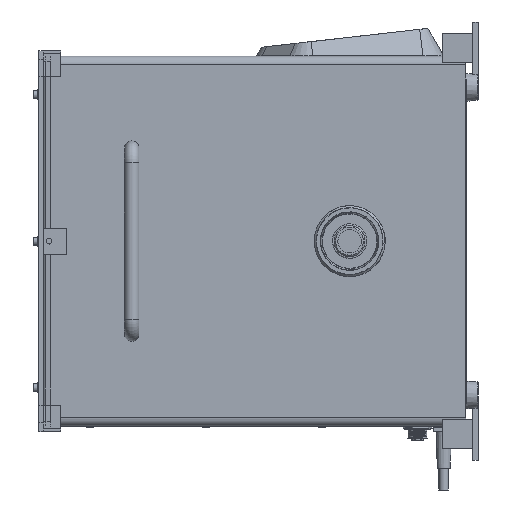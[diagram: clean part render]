
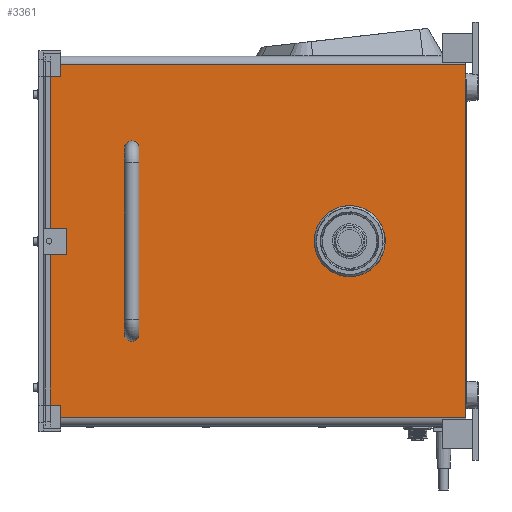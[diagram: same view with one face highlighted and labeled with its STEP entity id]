
A CAD part, left-side view. The second image highlights one B-rep face of the part: STEP entity #3361.
In plain terms, the highlighted planar face has unit normal (-1, 0, 0).
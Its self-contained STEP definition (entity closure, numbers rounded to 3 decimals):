
#864 = CYLINDRICAL_SURFACE('',#865,0.85);
#865 = AXIS2_PLACEMENT_3D('',#866,#867,#868);
#866 = CARTESIAN_POINT('',(-156.65,-289.,-111.7));
#867 = DIRECTION('',(0.,0.,-1.));
#868 = DIRECTION('',(1.,0.,0.));
#880 = VERTEX_POINT('',#881);
#881 = CARTESIAN_POINT('',(-157.5,-289.,-121.7));
#902 = PLANE('',#903);
#903 = AXIS2_PLACEMENT_3D('',#904,#905,#906);
#904 = CARTESIAN_POINT('',(-151.7,-289.,-126.7));
#905 = DIRECTION('',(0.,-1.,0.));
#906 = DIRECTION('',(0.,-0.,-1.));
#931 = CYLINDRICAL_SURFACE('',#932,5.8);
#932 = AXIS2_PLACEMENT_3D('',#933,#934,#935);
#933 = CARTESIAN_POINT('',(-151.7,-289.,-121.7));
#934 = DIRECTION('',(0.,1.,0.));
#935 = DIRECTION('',(0.,-0.,1.));
#1030 = VERTEX_POINT('',#1031);
#1031 = CARTESIAN_POINT('',(-157.5,-289.,-111.7));
#1057 = EDGE_CURVE('',#1030,#880,#1058,.T.);
#1058 = SURFACE_CURVE('',#1059,(#1063,#1070),.PCURVE_S1.);
#1059 = LINE('',#1060,#1061);
#1060 = CARTESIAN_POINT('',(-157.5,-289.,-127.5));
#1061 = VECTOR('',#1062,1.);
#1062 = DIRECTION('',(0.,0.,-1.));
#1063 = PCURVE('',#902,#1064);
#1064 = DEFINITIONAL_REPRESENTATION('',(#1065),#1069);
#1065 = LINE('',#1066,#1067);
#1066 = CARTESIAN_POINT('',(0.8,-5.8));
#1067 = VECTOR('',#1068,1.);
#1068 = DIRECTION('',(1.,0.));
#1069 = ( GEOMETRIC_REPRESENTATION_CONTEXT(2) 
PARAMETRIC_REPRESENTATION_CONTEXT() REPRESENTATION_CONTEXT('2D SPACE',''
  ) );
#1070 = PCURVE('',#1071,#1076);
#1071 = PLANE('',#1072);
#1072 = AXIS2_PLACEMENT_3D('',#1073,#1074,#1075);
#1073 = CARTESIAN_POINT('',(-157.5,-289.,-127.5));
#1074 = DIRECTION('',(1.,0.,0.));
#1075 = DIRECTION('',(0.,0.,-1.));
#1076 = DEFINITIONAL_REPRESENTATION('',(#1077),#1081);
#1077 = LINE('',#1078,#1079);
#1078 = CARTESIAN_POINT('',(0.,0.));
#1079 = VECTOR('',#1080,1.);
#1080 = DIRECTION('',(1.,0.));
#1081 = ( GEOMETRIC_REPRESENTATION_CONTEXT(2) 
PARAMETRIC_REPRESENTATION_CONTEXT() REPRESENTATION_CONTEXT('2D SPACE',''
  ) );
#1152 = EDGE_CURVE('',#1030,#1153,#1155,.T.);
#1153 = VERTEX_POINT('',#1154);
#1154 = CARTESIAN_POINT('',(-157.5,-289.,111.7));
#1155 = SURFACE_CURVE('',#1156,(#1160,#1167),.PCURVE_S1.);
#1156 = LINE('',#1157,#1158);
#1157 = CARTESIAN_POINT('',(-157.5,-289.,-111.7));
#1158 = VECTOR('',#1159,1.);
#1159 = DIRECTION('',(0.,-0.,1.));
#1160 = PCURVE('',#864,#1161);
#1161 = DEFINITIONAL_REPRESENTATION('',(#1162),#1166);
#1162 = LINE('',#1163,#1164);
#1163 = CARTESIAN_POINT('',(3.142,0.));
#1164 = VECTOR('',#1165,1.);
#1165 = DIRECTION('',(0.,-1.));
#1166 = ( GEOMETRIC_REPRESENTATION_CONTEXT(2) 
PARAMETRIC_REPRESENTATION_CONTEXT() REPRESENTATION_CONTEXT('2D SPACE',''
  ) );
#1167 = PCURVE('',#1071,#1168);
#1168 = DEFINITIONAL_REPRESENTATION('',(#1169),#1173);
#1169 = LINE('',#1170,#1171);
#1170 = CARTESIAN_POINT('',(-15.8,0.));
#1171 = VECTOR('',#1172,1.);
#1172 = DIRECTION('',(-1.,0.));
#1173 = ( GEOMETRIC_REPRESENTATION_CONTEXT(2) 
PARAMETRIC_REPRESENTATION_CONTEXT() REPRESENTATION_CONTEXT('2D SPACE',''
  ) );
#1254 = PLANE('',#1255);
#1255 = AXIS2_PLACEMENT_3D('',#1256,#1257,#1258);
#1256 = CARTESIAN_POINT('',(-151.7,-289.,-126.7));
#1257 = DIRECTION('',(0.,-1.,0.));
#1258 = DIRECTION('',(0.,-0.,-1.));
#1295 = VERTEX_POINT('',#1296);
#1296 = CARTESIAN_POINT('',(-157.5,-289.,121.7));
#1322 = EDGE_CURVE('',#1295,#1153,#1323,.T.);
#1323 = SURFACE_CURVE('',#1324,(#1328,#1335),.PCURVE_S1.);
#1324 = LINE('',#1325,#1326);
#1325 = CARTESIAN_POINT('',(-157.5,-289.,-127.5));
#1326 = VECTOR('',#1327,1.);
#1327 = DIRECTION('',(0.,0.,-1.));
#1328 = PCURVE('',#1254,#1329);
#1329 = DEFINITIONAL_REPRESENTATION('',(#1330),#1334);
#1330 = LINE('',#1331,#1332);
#1331 = CARTESIAN_POINT('',(0.8,-5.8));
#1332 = VECTOR('',#1333,1.);
#1333 = DIRECTION('',(1.,0.));
#1334 = ( GEOMETRIC_REPRESENTATION_CONTEXT(2) 
PARAMETRIC_REPRESENTATION_CONTEXT() REPRESENTATION_CONTEXT('2D SPACE',''
  ) );
#1335 = PCURVE('',#1071,#1336);
#1336 = DEFINITIONAL_REPRESENTATION('',(#1337),#1341);
#1337 = LINE('',#1338,#1339);
#1338 = CARTESIAN_POINT('',(0.,0.));
#1339 = VECTOR('',#1340,1.);
#1340 = DIRECTION('',(1.,0.));
#1341 = ( GEOMETRIC_REPRESENTATION_CONTEXT(2) 
PARAMETRIC_REPRESENTATION_CONTEXT() REPRESENTATION_CONTEXT('2D SPACE',''
  ) );
#1391 = CYLINDRICAL_SURFACE('',#1392,5.8);
#1392 = AXIS2_PLACEMENT_3D('',#1393,#1394,#1395);
#1393 = CARTESIAN_POINT('',(-151.7,-289.,121.7));
#1394 = DIRECTION('',(0.,1.,0.));
#1395 = DIRECTION('',(0.,-0.,1.));
#3323 = VERTEX_POINT('',#3324);
#3324 = CARTESIAN_POINT('',(-157.5,0.,-121.7));
#3341 = EDGE_CURVE('',#880,#3323,#3342,.T.);
#3342 = SURFACE_CURVE('',#3343,(#3347,#3354),.PCURVE_S1.);
#3343 = LINE('',#3344,#3345);
#3344 = CARTESIAN_POINT('',(-157.5,-289.,-121.7));
#3345 = VECTOR('',#3346,1.);
#3346 = DIRECTION('',(0.,1.,0.));
#3347 = PCURVE('',#931,#3348);
#3348 = DEFINITIONAL_REPRESENTATION('',(#3349),#3353);
#3349 = LINE('',#3350,#3351);
#3350 = CARTESIAN_POINT('',(4.712,0.));
#3351 = VECTOR('',#3352,1.);
#3352 = DIRECTION('',(0.,1.));
#3353 = ( GEOMETRIC_REPRESENTATION_CONTEXT(2) 
PARAMETRIC_REPRESENTATION_CONTEXT() REPRESENTATION_CONTEXT('2D SPACE',''
  ) );
#3354 = PCURVE('',#1071,#3355);
#3355 = DEFINITIONAL_REPRESENTATION('',(#3356),#3360);
#3356 = LINE('',#3357,#3358);
#3357 = CARTESIAN_POINT('',(-5.8,0.));
#3358 = VECTOR('',#3359,1.);
#3359 = DIRECTION('',(0.,1.));
#3360 = ( GEOMETRIC_REPRESENTATION_CONTEXT(2) 
PARAMETRIC_REPRESENTATION_CONTEXT() REPRESENTATION_CONTEXT('2D SPACE',''
  ) );
#3361 = ADVANCED_FACE('',(#3362,#3381,#3400,#3419),#1071,.F.);
#3362 = FACE_BOUND('',#3363,.T.);
#3363 = EDGE_LOOP('',(#3364));
#3364 = ORIENTED_EDGE('',*,*,#3365,.T.);
#3365 = EDGE_CURVE('',#3366,#3366,#3368,.T.);
#3366 = VERTEX_POINT('',#3367);
#3367 = CARTESIAN_POINT('',(-157.5,-209.15,-20.25));
#3368 = SURFACE_CURVE('',#3369,(#3374),.PCURVE_S1.);
#3369 = CIRCLE('',#3370,20.25);
#3370 = AXIS2_PLACEMENT_3D('',#3371,#3372,#3373);
#3371 = CARTESIAN_POINT('',(-157.5,-209.15,0.));
#3372 = DIRECTION('',(1.,0.,0.));
#3373 = DIRECTION('',(0.,-0.,-1.));
#3374 = PCURVE('',#1071,#3375);
#3375 = DEFINITIONAL_REPRESENTATION('',(#3376),#3380);
#3376 = CIRCLE('',#3377,20.25);
#3377 = AXIS2_PLACEMENT_2D('',#3378,#3379);
#3378 = CARTESIAN_POINT('',(-127.5,79.85));
#3379 = DIRECTION('',(1.,-0.));
#3380 = ( GEOMETRIC_REPRESENTATION_CONTEXT(2) 
PARAMETRIC_REPRESENTATION_CONTEXT() REPRESENTATION_CONTEXT('2D SPACE',''
  ) );
#3381 = FACE_BOUND('',#3382,.T.);
#3382 = EDGE_LOOP('',(#3383));
#3383 = ORIENTED_EDGE('',*,*,#3384,.T.);
#3384 = EDGE_CURVE('',#3385,#3385,#3387,.T.);
#3385 = VERTEX_POINT('',#3386);
#3386 = CARTESIAN_POINT('',(-157.5,-59.,61.9));
#3387 = SURFACE_CURVE('',#3388,(#3393),.PCURVE_S1.);
#3388 = CIRCLE('',#3389,2.1);
#3389 = AXIS2_PLACEMENT_3D('',#3390,#3391,#3392);
#3390 = CARTESIAN_POINT('',(-157.5,-59.,64.));
#3391 = DIRECTION('',(1.,-0.,0.));
#3392 = DIRECTION('',(0.,0.,-1.));
#3393 = PCURVE('',#1071,#3394);
#3394 = DEFINITIONAL_REPRESENTATION('',(#3395),#3399);
#3395 = CIRCLE('',#3396,2.1);
#3396 = AXIS2_PLACEMENT_2D('',#3397,#3398);
#3397 = CARTESIAN_POINT('',(-191.5,230.));
#3398 = DIRECTION('',(1.,0.));
#3399 = ( GEOMETRIC_REPRESENTATION_CONTEXT(2) 
PARAMETRIC_REPRESENTATION_CONTEXT() REPRESENTATION_CONTEXT('2D SPACE',''
  ) );
#3400 = FACE_BOUND('',#3401,.T.);
#3401 = EDGE_LOOP('',(#3402));
#3402 = ORIENTED_EDGE('',*,*,#3403,.T.);
#3403 = EDGE_CURVE('',#3404,#3404,#3406,.T.);
#3404 = VERTEX_POINT('',#3405);
#3405 = CARTESIAN_POINT('',(-157.5,-59.,-66.1));
#3406 = SURFACE_CURVE('',#3407,(#3412),.PCURVE_S1.);
#3407 = CIRCLE('',#3408,2.1);
#3408 = AXIS2_PLACEMENT_3D('',#3409,#3410,#3411);
#3409 = CARTESIAN_POINT('',(-157.5,-59.,-64.));
#3410 = DIRECTION('',(1.,-0.,0.));
#3411 = DIRECTION('',(0.,0.,-1.));
#3412 = PCURVE('',#1071,#3413);
#3413 = DEFINITIONAL_REPRESENTATION('',(#3414),#3418);
#3414 = CIRCLE('',#3415,2.1);
#3415 = AXIS2_PLACEMENT_2D('',#3416,#3417);
#3416 = CARTESIAN_POINT('',(-63.5,230.));
#3417 = DIRECTION('',(1.,0.));
#3418 = ( GEOMETRIC_REPRESENTATION_CONTEXT(2) 
PARAMETRIC_REPRESENTATION_CONTEXT() REPRESENTATION_CONTEXT('2D SPACE',''
  ) );
#3419 = FACE_BOUND('',#3420,.T.);
#3420 = EDGE_LOOP('',(#3421,#3437,#3438,#3439,#3440,#3441));
#3421 = ORIENTED_EDGE('',*,*,#3422,.T.);
#3422 = EDGE_CURVE('',#3423,#3323,#3425,.T.);
#3423 = VERTEX_POINT('',#3424);
#3424 = CARTESIAN_POINT('',(-157.5,0.,121.7));
#3425 = SURFACE_CURVE('',#3426,(#3430),.PCURVE_S1.);
#3426 = LINE('',#3427,#3428);
#3427 = CARTESIAN_POINT('',(-157.5,0.,-127.5));
#3428 = VECTOR('',#3429,1.);
#3429 = DIRECTION('',(0.,0.,-1.));
#3430 = PCURVE('',#1071,#3431);
#3431 = DEFINITIONAL_REPRESENTATION('',(#3432),#3436);
#3432 = LINE('',#3433,#3434);
#3433 = CARTESIAN_POINT('',(0.,289.));
#3434 = VECTOR('',#3435,1.);
#3435 = DIRECTION('',(1.,0.));
#3436 = ( GEOMETRIC_REPRESENTATION_CONTEXT(2) 
PARAMETRIC_REPRESENTATION_CONTEXT() REPRESENTATION_CONTEXT('2D SPACE',''
  ) );
#3437 = ORIENTED_EDGE('',*,*,#3341,.F.);
#3438 = ORIENTED_EDGE('',*,*,#1057,.F.);
#3439 = ORIENTED_EDGE('',*,*,#1152,.T.);
#3440 = ORIENTED_EDGE('',*,*,#1322,.F.);
#3441 = ORIENTED_EDGE('',*,*,#3442,.T.);
#3442 = EDGE_CURVE('',#1295,#3423,#3443,.T.);
#3443 = SURFACE_CURVE('',#3444,(#3448,#3455),.PCURVE_S1.);
#3444 = LINE('',#3445,#3446);
#3445 = CARTESIAN_POINT('',(-157.5,-289.,121.7));
#3446 = VECTOR('',#3447,1.);
#3447 = DIRECTION('',(0.,1.,0.));
#3448 = PCURVE('',#1071,#3449);
#3449 = DEFINITIONAL_REPRESENTATION('',(#3450),#3454);
#3450 = LINE('',#3451,#3452);
#3451 = CARTESIAN_POINT('',(-249.2,0.));
#3452 = VECTOR('',#3453,1.);
#3453 = DIRECTION('',(0.,1.));
#3454 = ( GEOMETRIC_REPRESENTATION_CONTEXT(2) 
PARAMETRIC_REPRESENTATION_CONTEXT() REPRESENTATION_CONTEXT('2D SPACE',''
  ) );
#3455 = PCURVE('',#1391,#3456);
#3456 = DEFINITIONAL_REPRESENTATION('',(#3457),#3461);
#3457 = LINE('',#3458,#3459);
#3458 = CARTESIAN_POINT('',(4.712,0.));
#3459 = VECTOR('',#3460,1.);
#3460 = DIRECTION('',(0.,1.));
#3461 = ( GEOMETRIC_REPRESENTATION_CONTEXT(2) 
PARAMETRIC_REPRESENTATION_CONTEXT() REPRESENTATION_CONTEXT('2D SPACE',''
  ) );
